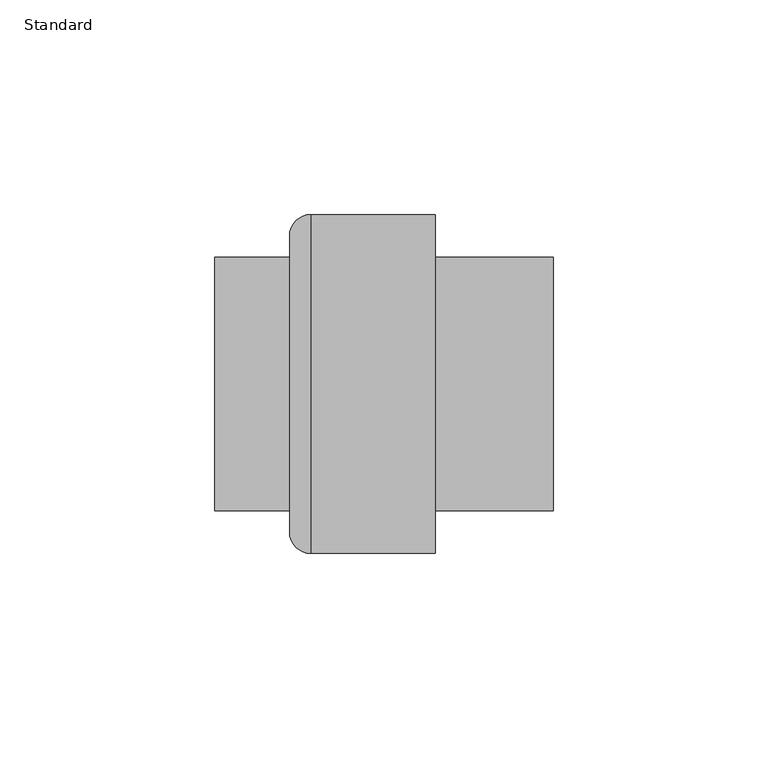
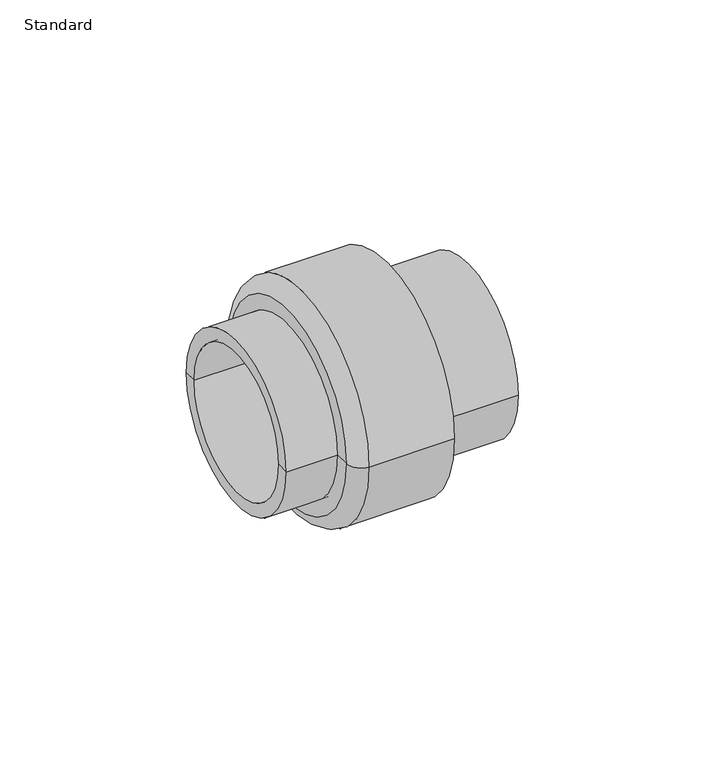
"""IFC4 building model written with IfcOpenShell, lengths in millimetres: pipe fitting geometry, Durapipe_PipeFitting_PVC_SocketUnions : Standard."""

from ifc_helpers import new_model, si_unit, point, frame, origin, place, context, project, spatial, polyline, circle_curve, ellipse_curve, trimmed, source, transform, mapped, element, save
from ifc_brep_helpers import plane_surface, cylinder_surface, revolved_surface, advanced_brep


def standard_54c42cd6(model_context):
    return source(origin(), model_context, "Body", "AdvancedBrep", [
        advanced_brep(
        [(-37.0, -29.5, 0.0), (-37.0, 29.5, 0.0), (-37.0, 34.5, 0.0), (-37.0, -34.5, 0.0), (-3.0, -39.5, 0.0), (-3.0, 39.5, 0.0), (-3.0, 29.5, 0.0), (-3.0, -29.5, 0.0), (-32.0, -39.5, 0.0), (-32.0, 39.5, 0.0)],
        [
            (0, 1, circle_curve(frame((-37.0, 0.0, 0.0), z_axis=(1.0, 0.0, 0.0), x_axis=(0.0, 1.0, 0.0)), 29.5)),
            (1, 2),
            (2, 3, circle_curve(frame((-37.0, 0.0, 0.0), z_axis=(-1.0, 0.0, 0.0), x_axis=(0.0, 1.0, 0.0)), 34.5)),
            (3, 0),
            (1, 0, circle_curve(frame((-37.0, 0.0, 0.0), z_axis=(1.0, 0.0, 0.0), x_axis=(0.0, 1.0, 0.0)), 29.5)),
            (3, 2, circle_curve(frame((-37.0, 0.0, 0.0), z_axis=(-1.0, 0.0, 0.0), x_axis=(0.0, 1.0, 0.0)), 34.5)),
            (4, 5, circle_curve(frame((-3.0, 0.0, 0.0), z_axis=(1.0, 0.0, 0.0), x_axis=(0.0, 1.0, 0.0)), 39.5)),
            (5, 6),
            (6, 7, circle_curve(frame((-3.0, 0.0, 0.0), z_axis=(-1.0, 0.0, 0.0), x_axis=(0.0, 1.0, 0.0)), 29.5)),
            (7, 4),
            (5, 4, circle_curve(frame((-3.0, 0.0, 0.0), z_axis=(1.0, 0.0, 0.0), x_axis=(0.0, 1.0, 0.0)), 39.5)),
            (7, 6, circle_curve(frame((-3.0, 0.0, 0.0), z_axis=(-1.0, 0.0, 0.0), x_axis=(0.0, 1.0, 0.0)), 29.5)),
            (8, 9, circle_curve(frame((-32.0, 0.0, 0.0), z_axis=(1.0, 0.0, 0.0), x_axis=(0.0, 1.0, 0.0)), 39.5)),
            (9, 5),
            (4, 8),
            (9, 8, circle_curve(frame((-32.0, 0.0, 0.0), z_axis=(1.0, 0.0, 0.0), x_axis=(0.0, 1.0, 0.0)), 39.5)),
            (2, 9, circle_curve(frame((-32.0, 34.5, 0.0), z_axis=(0.0, 0.0, -1.0), x_axis=(1.0, 0.0, 0.0)), 5.0)),
            (8, 3, circle_curve(frame((-32.0, -34.5, 0.0), z_axis=(0.0, 0.0, -1.0), x_axis=(1.0, 0.0, 0.0)), 5.0)),
            (6, 1),
            (0, 7),
        ],
        [
            plane_surface(frame((-37.0, 0.0, 0.0), z_axis=(-1.0, 0.0, 0.0), x_axis=(0.0, 1.0, 0.0))),
            plane_surface(frame((-3.0, 0.0, 0.0), z_axis=(1.0, 0.0, 0.0), x_axis=(0.0, 1.0, 0.0))),
            cylinder_surface(frame((2000.0, 0.0, 0.0), z_axis=(-1.0, 0.0, 0.0), x_axis=(0.0, 1.0, 0.0)), 39.5),
            revolved_surface(trimmed(ellipse_curve(frame((-32.0, 34.5, 0.0), z_axis=(0.0, 0.0, 1.0), x_axis=(1.0, 0.0, 0.0)), 5.0, 5.0), [point((-32.0, 39.5, 0.0))], [point((-37.0, 34.5, 0.0))], True, "CARTESIAN"), (2000.0, 0.0, 0.0), (-1.0, 0.0, 0.0)),
            revolved_surface(polyline([(-37.0, 29.5, 0.0), (-3.0, 29.5, 0.0)]), (2000.0, 0.0, 0.0), (-1.0, 0.0, 0.0)),
        ],
        [
            (0, [[1, 2, 3, 4]]),
            (0, [[5, -4, 6, -2]]),
            (1, [[7, 8, 9, 10]]),
            (1, [[11, -10, 12, -8]]),
            (2, [[13, 14, -7, 15]]),
            (2, [[16, -15, -11, -14]]),
            (3, [[-3, 17, -13, 18]]),
            (3, [[-6, -18, -16, -17]]),
            (4, [[-9, 19, -1, 20]]),
            (4, [[-12, -20, -5, -19]]),
        ],
    ),
        advanced_brep(
        [(-23.5, -25.0, 0.0), (-23.5, 25.0, 0.0), (-54.5, 25.0, 0.0), (-54.5, -25.0, 0.0), (-23.5, 0.0, 0.0), (-6.5, -25.0, 0.0), (-6.5, 25.0, 0.0), (-6.5, 0.0, 0.0), (-54.5, -29.5, 0.0), (-54.5, 29.5, 0.0), (24.5, 29.5, 0.0), (24.5, -29.5, 0.0), (24.5, -25.0, 0.0), (24.5, 25.0, 0.0)],
        [
            (0, 1, circle_curve(frame((-23.5, 0.0, 0.0), z_axis=(1.0, 0.0, 0.0), x_axis=(0.0, 1.0, 0.0)), 25.0)),
            (1, 2),
            (2, 3, circle_curve(frame((-54.5, 0.0, 0.0), z_axis=(-1.0, 0.0, 0.0), x_axis=(0.0, 1.0, 0.0)), 25.0)),
            (3, 0),
            (1, 0, circle_curve(frame((-23.5, 0.0, 0.0), z_axis=(1.0, 0.0, 0.0), x_axis=(0.0, 1.0, 0.0)), 25.0)),
            (3, 2, circle_curve(frame((-54.5, 0.0, 0.0), z_axis=(-1.0, 0.0, 0.0), x_axis=(0.0, 1.0, 0.0)), 25.0)),
            (4, 1),
            (0, 4),
            (5, 6, circle_curve(frame((-6.5, 0.0, 0.0), z_axis=(1.0, 0.0, 0.0), x_axis=(0.0, 1.0, 0.0)), 25.0)),
            (6, 7),
            (7, 5),
            (6, 5, circle_curve(frame((-6.5, 0.0, 0.0), z_axis=(1.0, 0.0, 0.0), x_axis=(0.0, 1.0, 0.0)), 25.0)),
            (8, 9, circle_curve(frame((-54.5, 0.0, 0.0), z_axis=(1.0, 0.0, 0.0), x_axis=(0.0, 1.0, 0.0)), 29.5)),
            (9, 10),
            (10, 11, circle_curve(frame((24.5, 0.0, 0.0), z_axis=(-1.0, 0.0, 0.0), x_axis=(0.0, 1.0, 0.0)), 29.5)),
            (11, 8),
            (9, 8, circle_curve(frame((-54.5, 0.0, 0.0), z_axis=(1.0, 0.0, 0.0), x_axis=(0.0, 1.0, 0.0)), 29.5)),
            (11, 10, circle_curve(frame((24.5, 0.0, 0.0), z_axis=(-1.0, 0.0, 0.0), x_axis=(0.0, 1.0, 0.0)), 29.5)),
            (2, 9),
            (8, 3),
            (12, 13, circle_curve(frame((24.5, 0.0, 0.0), z_axis=(1.0, 0.0, 0.0), x_axis=(0.0, 1.0, 0.0)), 25.0)),
            (13, 6),
            (5, 12),
            (13, 12, circle_curve(frame((24.5, 0.0, 0.0), z_axis=(1.0, 0.0, 0.0), x_axis=(0.0, 1.0, 0.0)), 25.0)),
            (10, 13),
            (12, 11),
        ],
        [
            revolved_surface(polyline([(-54.5, 25.0, 0.0), (-23.5, 25.0, 0.0)]), (2000.0, 0.0, 0.0), (-1.0, 0.0, 0.0)),
            plane_surface(frame((-23.5, 0.0, 0.0), z_axis=(-1.0, 0.0, 0.0), x_axis=(0.0, 1.0, 0.0))),
            plane_surface(frame((-6.5, 0.0, 0.0), z_axis=(1.0, 0.0, 0.0), x_axis=(0.0, 1.0, 0.0))),
            cylinder_surface(frame((2000.0, 0.0, 0.0), z_axis=(-1.0, 0.0, 0.0), x_axis=(0.0, 1.0, 0.0)), 29.5),
            plane_surface(frame((-54.5, 0.0, 0.0), z_axis=(-1.0, 0.0, 0.0), x_axis=(0.0, 1.0, 0.0))),
            revolved_surface(polyline([(-6.5, 25.0, 0.0), (24.5, 25.0, 0.0)]), (2000.0, 0.0, 0.0), (-1.0, 0.0, 0.0)),
            plane_surface(frame((24.5, 0.0, 0.0), z_axis=(1.0, 0.0, 0.0), x_axis=(0.0, 1.0, 0.0))),
        ],
        [
            (0, [[1, 2, 3, 4]]),
            (0, [[5, -4, 6, -2]]),
            (1, [[7, -1, 8]]),
            (1, [[-8, -5, -7]]),
            (2, [[9, 10, 11]]),
            (2, [[12, -11, -10]]),
            (3, [[13, 14, 15, 16]]),
            (3, [[17, -16, 18, -14]]),
            (4, [[-3, 19, -13, 20]]),
            (4, [[-6, -20, -17, -19]]),
            (5, [[21, 22, -9, 23]]),
            (5, [[24, -23, -12, -22]]),
            (6, [[-15, 25, -21, 26]]),
            (6, [[-18, -26, -24, -25]]),
        ],
    ),
    ])


if __name__ == "__main__":
    model = new_model("IFC4")
    model_context = context("Model", 3, world=origin())
    ifc_project = project(units=[si_unit("LENGTHUNIT", "METRE", prefix="MILLI")], contexts=[model_context])
    site = spatial("IfcSite", under=ifc_project)
    building = spatial("IfcBuilding", under=site)
    placement = place(None, origin())
    standard_shape = standard_54c42cd6(model_context)
    element("IfcPipeFitting", 1, ObjectType="Durapipe_PipeFitting_PVC_SocketUnions : Standard", at=placement, inside=building, context=model_context, shape_type="MappedRepresentation", body=[
        mapped(standard_shape, transform((0.0, 0.0, 0.0), x_axis=(1.0, 0.0, 0.0), y_axis=(0.0, 1.0, 0.0), z_axis=(0.0, 0.0, 1.0))),
    ])
    save(model, "model.ifc")
